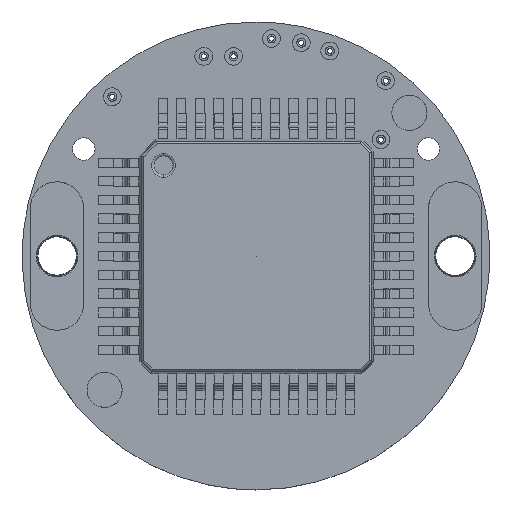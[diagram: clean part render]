
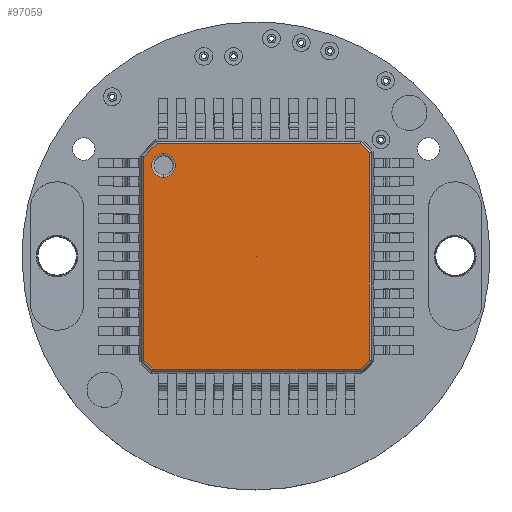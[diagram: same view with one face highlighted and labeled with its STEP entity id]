
A CAD part, top view. The second image highlights one B-rep face of the part: STEP entity #97059.
In plain terms, the highlighted planar face has unit normal (0, 0, 1).
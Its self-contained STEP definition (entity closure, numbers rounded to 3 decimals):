
#2390 = CARTESIAN_POINT ( 'NONE',  ( 4.796, 4.205, 1.676 ) ) ;
#3165 = VERTEX_POINT ( 'NONE', #6502 ) ;
#4998 = EDGE_CURVE ( 'NONE', #64265, #110586, #108288, .T. ) ;
#5008 = CARTESIAN_POINT ( 'NONE',  ( -9.358, 4.597, 1.676 ) ) ;
#6502 = CARTESIAN_POINT ( 'NONE',  ( -3.999, 4.172, 1.676 ) ) ;
#7529 = CARTESIAN_POINT ( 'NONE',  ( -0.018, -0.219, 1.676 ) ) ;
#8980 = EDGE_LOOP ( 'NONE', ( #71827, #108101, #57118, #117757, #102949, #54911, #102542, #108986 ) ) ;
#10336 = CARTESIAN_POINT ( 'NONE',  ( -0.018, -0.224, 1.676 ) ) ;
#10981 = CIRCLE ( 'NONE', #97702, 0.005 ) ;
#11353 = VERTEX_POINT ( 'NONE', #28491 ) ;
#13668 = VERTEX_POINT ( 'NONE', #113996 ) ;
#15264 = LINE ( 'NONE', #81781, #89358 ) ;
#15797 = CARTESIAN_POINT ( 'NONE',  ( -4.836, 4.024, 1.676 ) ) ;
#17298 = DIRECTION ( 'NONE',  ( 0., -1., 0. ) ) ;
#20985 = FACE_BOUND ( 'NONE', #99664, .T. ) ;
#21979 = LINE ( 'NONE', #109480, #44703 ) ;
#23844 = DIRECTION ( 'NONE',  ( -0.703, 0.711, 0. ) ) ;
#28491 = CARTESIAN_POINT ( 'NONE',  ( 4.409, -5.035, 1.676 ) ) ;
#29162 = VERTEX_POINT ( 'NONE', #10336 ) ;
#29643 = ORIENTED_EDGE ( 'NONE', *, *, #46453, .F. ) ;
#32313 = ORIENTED_EDGE ( 'NONE', *, *, #95676, .T. ) ;
#33604 = CIRCLE ( 'NONE', #115487, 0.504 ) ;
#34422 = CARTESIAN_POINT ( 'NONE',  ( -3.999, 3.667, 1.676 ) ) ;
#35777 = AXIS2_PLACEMENT_3D ( 'NONE', #96534, #38842, #106242 ) ;
#37744 = LINE ( 'NONE', #108169, #111588 ) ;
#38842 = DIRECTION ( 'NONE',  ( 0., 0., 1. ) ) ;
#40182 = VECTOR ( 'NONE', #52962, 1000. ) ;
#40636 = CARTESIAN_POINT ( 'NONE',  ( -4.836, -0.344, 1.676 ) ) ;
#41779 = CARTESIAN_POINT ( 'NONE',  ( 4.796, -4.652, 1.676 ) ) ;
#43922 = AXIS2_PLACEMENT_3D ( 'NONE', #7529, #75284, #17298 ) ;
#44110 = CARTESIAN_POINT ( 'NONE',  ( 4.796, -0.344, 1.676 ) ) ;
#44157 = DIRECTION ( 'NONE',  ( 0., -1., 0. ) ) ;
#44703 = VECTOR ( 'NONE', #61507, 1000. ) ;
#45133 = CARTESIAN_POINT ( 'NONE',  ( 4.408, 4.597, 1.676 ) ) ;
#45229 = CARTESIAN_POINT ( 'NONE',  ( -3.999, 3.667, 1.676 ) ) ;
#45249 = DIRECTION ( 'NONE',  ( 0., -1., 0. ) ) ;
#46453 = EDGE_CURVE ( 'NONE', #29162, #13668, #51395, .T. ) ;
#48623 = LINE ( 'NONE', #80390, #99869 ) ;
#50528 = EDGE_CURVE ( 'NONE', #56281, #64265, #37744, .T. ) ;
#51395 = CIRCLE ( 'NONE', #43922, 0.005 ) ;
#52962 = DIRECTION ( 'NONE',  ( -1., 0., 0. ) ) ;
#54440 = CARTESIAN_POINT ( 'NONE',  ( -0.018, -0.219, 1.676 ) ) ;
#54911 = ORIENTED_EDGE ( 'NONE', *, *, #98079, .T. ) ;
#54952 = DIRECTION ( 'NONE',  ( 0., -1., 0. ) ) ;
#56281 = VERTEX_POINT ( 'NONE', #91413 ) ;
#57094 = VECTOR ( 'NONE', #45249, 1000. ) ;
#57118 = ORIENTED_EDGE ( 'NONE', *, *, #4998, .T. ) ;
#60208 = DIRECTION ( 'NONE',  ( -0.702, -0.712, 0. ) ) ;
#61507 = DIRECTION ( 'NONE',  ( 0.711, 0.703, 0. ) ) ;
#63464 = EDGE_CURVE ( 'NONE', #103083, #56281, #65817, .T. ) ;
#64147 = DIRECTION ( 'NONE',  ( 0., -1., 0. ) ) ;
#64265 = VERTEX_POINT ( 'NONE', #15797 ) ;
#65817 = LINE ( 'NONE', #5008, #40182 ) ;
#66807 = LINE ( 'NONE', #44110, #115006 ) ;
#68909 = ORIENTED_EDGE ( 'NONE', *, *, #71710, .F. ) ;
#71710 = EDGE_CURVE ( 'NONE', #13668, #29162, #10981, .T. ) ;
#71827 = ORIENTED_EDGE ( 'NONE', *, *, #63464, .T. ) ;
#72349 = EDGE_CURVE ( 'NONE', #115823, #103083, #15264, .T. ) ;
#75284 = DIRECTION ( 'NONE',  ( 0., 0., 1. ) ) ;
#75488 = FACE_OUTER_BOUND ( 'NONE', #8980, .T. ) ;
#76651 = VECTOR ( 'NONE', #103151, 1000. ) ;
#78605 = VERTEX_POINT ( 'NONE', #99456 ) ;
#78606 = VERTEX_POINT ( 'NONE', #41779 ) ;
#79711 = LINE ( 'NONE', #93432, #76651 ) ;
#80390 = CARTESIAN_POINT ( 'NONE',  ( -9.227, -0.215, 1.676 ) ) ;
#81291 = AXIS2_PLACEMENT_3D ( 'NONE', #34422, #101845, #44157 ) ;
#81781 = CARTESIAN_POINT ( 'NONE',  ( 0.071, 8.982, 1.676 ) ) ;
#82753 = CARTESIAN_POINT ( 'NONE',  ( -3.999, 3.163, 1.676 ) ) ;
#89358 = VECTOR ( 'NONE', #23844, 1000. ) ;
#91413 = CARTESIAN_POINT ( 'NONE',  ( -4.271, 4.597, 1.676 ) ) ;
#91668 = EDGE_CURVE ( 'NONE', #78606, #115823, #66807, .T. ) ;
#93432 = CARTESIAN_POINT ( 'NONE',  ( -9.358, -5.035, 1.676 ) ) ;
#94497 = EDGE_LOOP ( 'NONE', ( #32313, #99402 ) ) ;
#95676 = EDGE_CURVE ( 'NONE', #101246, #3165, #33604, .T. ) ;
#96534 = CARTESIAN_POINT ( 'NONE',  ( -9.358, -0.344, 1.676 ) ) ;
#97059 = ADVANCED_FACE ( 'NONE', ( #97976, #75488, #20985 ), #105834, .T. ) ;
#97702 = AXIS2_PLACEMENT_3D ( 'NONE', #54440, #121802, #64147 ) ;
#97976 = FACE_BOUND ( 'NONE', #94497, .T. ) ;
#98079 = EDGE_CURVE ( 'NONE', #11353, #78606, #21979, .T. ) ;
#99402 = ORIENTED_EDGE ( 'NONE', *, *, #123298, .T. ) ;
#99456 = CARTESIAN_POINT ( 'NONE',  ( -4.459, -5.035, 1.676 ) ) ;
#99664 = EDGE_LOOP ( 'NONE', ( #68909, #29643 ) ) ;
#99869 = VECTOR ( 'NONE', #116072, 1000. ) ;
#101246 = VERTEX_POINT ( 'NONE', #82753 ) ;
#101845 = DIRECTION ( 'NONE',  ( 0., 0., -1. ) ) ;
#102542 = ORIENTED_EDGE ( 'NONE', *, *, #91668, .T. ) ;
#102949 = ORIENTED_EDGE ( 'NONE', *, *, #111003, .T. ) ;
#103083 = VERTEX_POINT ( 'NONE', #45133 ) ;
#103151 = DIRECTION ( 'NONE',  ( 1., 0., 0. ) ) ;
#104566 = CIRCLE ( 'NONE', #81291, 0.504 ) ;
#105834 = PLANE ( 'NONE',  #35777 ) ;
#106242 = DIRECTION ( 'NONE',  ( 0., -1., 0. ) ) ;
#108101 = ORIENTED_EDGE ( 'NONE', *, *, #50528, .T. ) ;
#108169 = CARTESIAN_POINT ( 'NONE',  ( -9.247, -0.453, 1.676 ) ) ;
#108288 = LINE ( 'NONE', #40636, #57094 ) ;
#108986 = ORIENTED_EDGE ( 'NONE', *, *, #72349, .T. ) ;
#109480 = CARTESIAN_POINT ( 'NONE',  ( -0.204, -9.598, 1.676 ) ) ;
#110586 = VERTEX_POINT ( 'NONE', #114627 ) ;
#111003 = EDGE_CURVE ( 'NONE', #78605, #11353, #79711, .T. ) ;
#111588 = VECTOR ( 'NONE', #60208, 1000. ) ;
#112571 = DIRECTION ( 'NONE',  ( 0., 0., -1. ) ) ;
#113996 = CARTESIAN_POINT ( 'NONE',  ( -0.018, -0.214, 1.676 ) ) ;
#114627 = CARTESIAN_POINT ( 'NONE',  ( -4.836, -4.653, 1.676 ) ) ;
#115006 = VECTOR ( 'NONE', #121176, 1000. ) ;
#115487 = AXIS2_PLACEMENT_3D ( 'NONE', #45229, #112571, #54952 ) ;
#115823 = VERTEX_POINT ( 'NONE', #2390 ) ;
#116072 = DIRECTION ( 'NONE',  ( 0.703, -0.711, 0. ) ) ;
#117757 = ORIENTED_EDGE ( 'NONE', *, *, #123928, .T. ) ;
#121176 = DIRECTION ( 'NONE',  ( 0., 1., 0. ) ) ;
#121802 = DIRECTION ( 'NONE',  ( 0., 0., 1. ) ) ;
#123298 = EDGE_CURVE ( 'NONE', #3165, #101246, #104566, .T. ) ;
#123928 = EDGE_CURVE ( 'NONE', #110586, #78605, #48623, .T. ) ;
